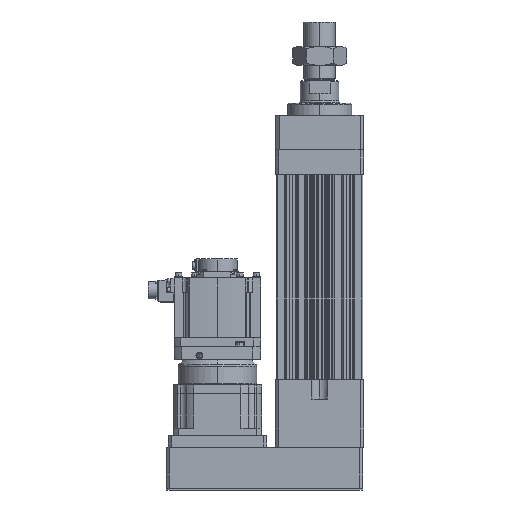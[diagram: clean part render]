
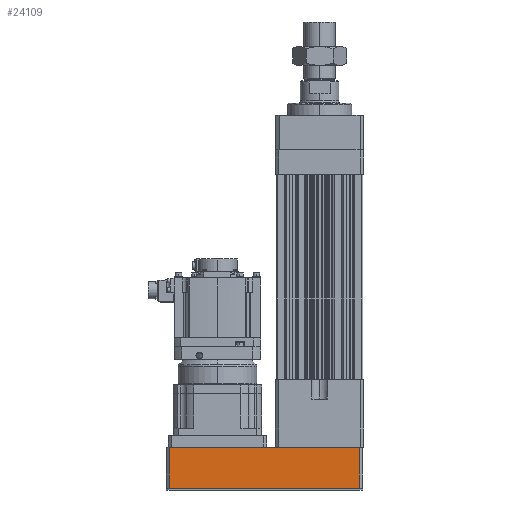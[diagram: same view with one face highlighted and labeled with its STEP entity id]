
A CAD part, left-side view. The second image highlights one B-rep face of the part: STEP entity #24109.
In plain terms, the highlighted planar face has unit normal (-1, 0, 0).
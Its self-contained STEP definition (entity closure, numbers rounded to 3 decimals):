
#3642 = CARTESIAN_POINT ( 'NONE',  ( -88., 306., -221.5 ) ) ;
#4431 = DIRECTION ( 'NONE',  ( 0., 0., -1. ) ) ;
#4559 = VECTOR ( 'NONE', #32402, 1000. ) ;
#5811 = EDGE_CURVE ( 'NONE', #12895, #29523, #10080, .T. ) ;
#8195 = VECTOR ( 'NONE', #41404, 1000. ) ;
#10080 = LINE ( 'NONE', #41222, #8195 ) ;
#12777 = DIRECTION ( 'NONE',  ( 1., 0., 0. ) ) ;
#12895 = VERTEX_POINT ( 'NONE', #3642 ) ;
#12960 = CARTESIAN_POINT ( 'NONE',  ( -88., -82., -222. ) ) ;
#13549 = EDGE_CURVE ( 'NONE', #39756, #35588, #35482, .T. ) ;
#14331 = FACE_OUTER_BOUND ( 'NONE', #50081, .T. ) ;
#17686 = CARTESIAN_POINT ( 'NONE',  ( -88., -82., -138.5 ) ) ;
#19862 = ORIENTED_EDGE ( 'NONE', *, *, #5811, .T. ) ;
#19988 = EDGE_CURVE ( 'NONE', #12895, #35588, #27397, .T. ) ;
#24109 = ADVANCED_FACE ( 'NONE', ( #14331 ), #40742, .F. ) ;
#24134 = VECTOR ( 'NONE', #42961, 1000. ) ;
#25418 = LINE ( 'NONE', #30046, #24134 ) ;
#27130 = CARTESIAN_POINT ( 'NONE',  ( -88., -82., -221.5 ) ) ;
#27397 = LINE ( 'NONE', #28009, #4559 ) ;
#28009 = CARTESIAN_POINT ( 'NONE',  ( -88., 306., -222. ) ) ;
#28624 = AXIS2_PLACEMENT_3D ( 'NONE', #12960, #12777, #4431 ) ;
#29523 = VERTEX_POINT ( 'NONE', #27130 ) ;
#30046 = CARTESIAN_POINT ( 'NONE',  ( -88., -82., -222. ) ) ;
#32290 = DIRECTION ( 'NONE',  ( 0., 1., 0. ) ) ;
#32402 = DIRECTION ( 'NONE',  ( 0., 0., 1. ) ) ;
#35482 = LINE ( 'NONE', #40450, #39321 ) ;
#35588 = VERTEX_POINT ( 'NONE', #45233 ) ;
#39321 = VECTOR ( 'NONE', #32290, 1000. ) ;
#39478 = ORIENTED_EDGE ( 'NONE', *, *, #47778, .T. ) ;
#39756 = VERTEX_POINT ( 'NONE', #17686 ) ;
#40450 = CARTESIAN_POINT ( 'NONE',  ( -88., -82., -138.5 ) ) ;
#40742 = PLANE ( 'NONE',  #28624 ) ;
#41222 = CARTESIAN_POINT ( 'NONE',  ( -88., -82., -221.5 ) ) ;
#41404 = DIRECTION ( 'NONE',  ( 0., -1., 0. ) ) ;
#42894 = ORIENTED_EDGE ( 'NONE', *, *, #19988, .F. ) ;
#42961 = DIRECTION ( 'NONE',  ( 0., 0., 1. ) ) ;
#45233 = CARTESIAN_POINT ( 'NONE',  ( -88., 306., -138.5 ) ) ;
#47778 = EDGE_CURVE ( 'NONE', #29523, #39756, #25418, .T. ) ;
#50081 = EDGE_LOOP ( 'NONE', ( #42894, #19862, #39478, #52482 ) ) ;
#52482 = ORIENTED_EDGE ( 'NONE', *, *, #13549, .T. ) ;
